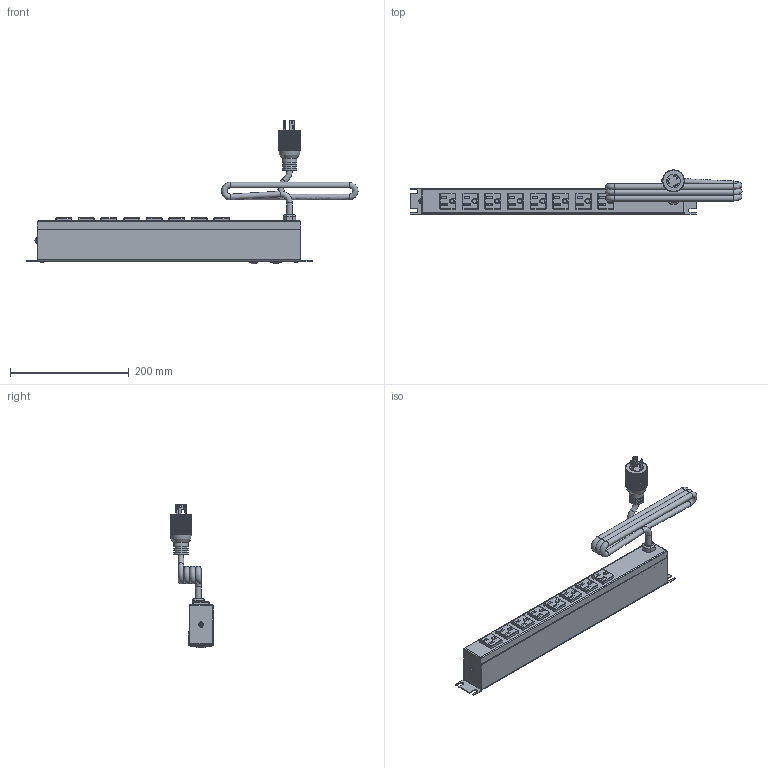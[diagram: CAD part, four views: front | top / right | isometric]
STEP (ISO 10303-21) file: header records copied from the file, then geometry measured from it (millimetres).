
FILE_DESCRIPTION(/* description */ (''),/* implementation_level */ '2;1');
FILE_NAME(/* name */ 'E:\Manufacturing\drawings\Web Drawings\POWER BARS\Shielded Cord & Tooless Mounting\STEP''s\1583H8D1BKV.stp',/* time_stamp */ '2018-06-05T10:15:00-04:00',/* author */ ('tfoster'),/* organization */ (''),/* preprocessor_version */ 'ST-DEVELOPER v16.13',/* originating_system */ 'Autodesk Inventor 2018',/* authorisation */ '');
FILE_SCHEMA (('AUTOMOTIVE_DESIGN { 1 0 10303 214 3 1 1 }'));
Products named in the file (12): 1583H8C1BK; 1582 Front plate; 1582 Back Plate; #29088; Reset Switch; Power Switch Assembly; Power Switch; Power Switch pt; Twist Cored 2; toothwasher; 90287A194; Receptacle
Assembly tree (21 placements, depth 3):
  1583H8C1BK
    1582 Front plate
    1582 Back Plate
    #29088  x4
    Reset Switch
    Power Switch Assembly
      Power Switch
      Power Switch pt
    Twist Cored 2
    Receptacle  x8
    toothwasher
    90287A194
Bounding box: 560.01 x 74.07 x 242.11 mm (x, y, z)
Volume: 422127.9 mm3; surface area: 316195.2 mm2
Topology: 20 solids, 20 shells, 1222 faces, 3420 edges, 2243 vertices
Faces by surface type: plane 840, cylinder 237, bspline 68, sphere 37, cone 25, torus 15
Full cylindrical faces by diameter (mm): 1 x2, 1.803 x3, 1.905 x2, 2.286 x1, 2.997 x4, 3.175 x3, 4.3 x1, 4.801 x1, 5.563 x4, 7.849 x1, 9.5 x5, 11 x1, 21.59 x2, 22.86 x1, 24.765 x3
Entity records: 28905 total; most frequent: CARTESIAN_POINT 8882, ORIENTED_EDGE 4212, DIRECTION 3827, EDGE_CURVE 2106, VERTEX_POINT 1432, LINE 1379, VECTOR 1379, AXIS2_PLACEMENT_3D 1224
